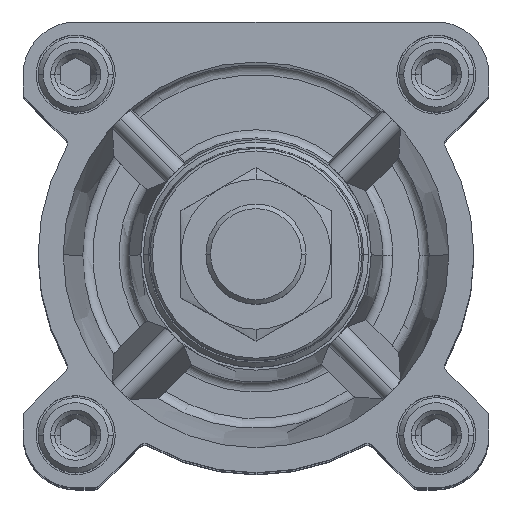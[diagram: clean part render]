
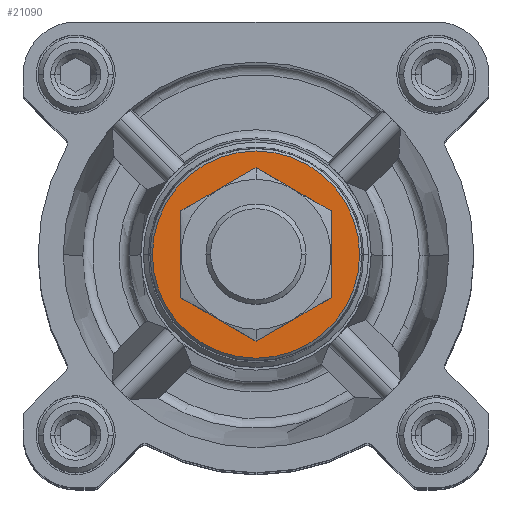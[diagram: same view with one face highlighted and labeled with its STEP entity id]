
A CAD part, top view. The second image highlights one B-rep face of the part: STEP entity #21090.
In plain terms, the highlighted planar face has unit normal (0, 0, 1).
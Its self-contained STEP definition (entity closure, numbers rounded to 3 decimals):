
#1798 = CARTESIAN_POINT ( 'NONE',  ( 20.686, 0., 34.2 ) ) ;
#1929 = EDGE_CURVE ( 'NONE', #14973, #24086, #2375, .T. ) ;
#2375 = CIRCLE ( 'NONE', #21744, 20.686 ) ;
#2533 = DIRECTION ( 'NONE',  ( -1., 0., 0. ) ) ;
#2573 = CARTESIAN_POINT ( 'NONE',  ( 0., 0., 34.2 ) ) ;
#2724 = AXIS2_PLACEMENT_3D ( 'NONE', #12633, #14787, #6000 ) ;
#3570 = CIRCLE ( 'NONE', #2724, 20.686 ) ;
#3857 = DIRECTION ( 'NONE',  ( 0., 0., -1. ) ) ;
#4333 = FACE_BOUND ( 'NONE', #21739, .T. ) ;
#4364 = VERTEX_POINT ( 'NONE', #20359 ) ;
#4680 = VERTEX_POINT ( 'NONE', #26488 ) ;
#5571 = DIRECTION ( 'NONE',  ( 0., 0., -1. ) ) ;
#5750 = CIRCLE ( 'NONE', #23405, 12.5 ) ;
#5839 = DIRECTION ( 'NONE',  ( -1., 0., 0. ) ) ;
#6000 = DIRECTION ( 'NONE',  ( -1., 0., 0. ) ) ;
#6375 = CIRCLE ( 'NONE', #14997, 12.5 ) ;
#6415 = ORIENTED_EDGE ( 'NONE', *, *, #6812, .F. ) ;
#6812 = EDGE_CURVE ( 'NONE', #24086, #14973, #3570, .T. ) ;
#10803 = DIRECTION ( 'NONE',  ( 0., -1., 0. ) ) ;
#11270 = ORIENTED_EDGE ( 'NONE', *, *, #1929, .F. ) ;
#12633 = CARTESIAN_POINT ( 'NONE',  ( 0., 0., 34.2 ) ) ;
#12682 = DIRECTION ( 'NONE',  ( 0., 0., -1. ) ) ;
#12727 = PLANE ( 'NONE',  #19585 ) ;
#14030 = CARTESIAN_POINT ( 'NONE',  ( 0., 0., 34.2 ) ) ;
#14486 = DIRECTION ( 'NONE',  ( 0., 0., -1. ) ) ;
#14787 = DIRECTION ( 'NONE',  ( 0., 0., -1. ) ) ;
#14973 = VERTEX_POINT ( 'NONE', #1798 ) ;
#14997 = AXIS2_PLACEMENT_3D ( 'NONE', #16361, #5571, #5839 ) ;
#15889 = CARTESIAN_POINT ( 'NONE',  ( -20.686, 0., 34.2 ) ) ;
#15936 = FACE_OUTER_BOUND ( 'NONE', #24080, .T. ) ;
#16361 = CARTESIAN_POINT ( 'NONE',  ( 0., 0., 34.2 ) ) ;
#18171 = CARTESIAN_POINT ( 'NONE',  ( 0., 0., 34.2 ) ) ;
#19585 = AXIS2_PLACEMENT_3D ( 'NONE', #2573, #14486, #10803 ) ;
#19606 = ORIENTED_EDGE ( 'NONE', *, *, #19687, .T. ) ;
#19687 = EDGE_CURVE ( 'NONE', #4364, #4680, #5750, .T. ) ;
#20316 = DIRECTION ( 'NONE',  ( -1., 0., 0. ) ) ;
#20359 = CARTESIAN_POINT ( 'NONE',  ( 12.5, 0., 34.2 ) ) ;
#20386 = ORIENTED_EDGE ( 'NONE', *, *, #21808, .T. ) ;
#21090 = ADVANCED_FACE ( 'NONE', ( #15936, #4333 ), #12727, .F. ) ;
#21739 = EDGE_LOOP ( 'NONE', ( #20386, #19606 ) ) ;
#21744 = AXIS2_PLACEMENT_3D ( 'NONE', #14030, #12682, #2533 ) ;
#21808 = EDGE_CURVE ( 'NONE', #4680, #4364, #6375, .T. ) ;
#23405 = AXIS2_PLACEMENT_3D ( 'NONE', #18171, #3857, #20316 ) ;
#24080 = EDGE_LOOP ( 'NONE', ( #6415, #11270 ) ) ;
#24086 = VERTEX_POINT ( 'NONE', #15889 ) ;
#26488 = CARTESIAN_POINT ( 'NONE',  ( -12.5, 0., 34.2 ) ) ;
